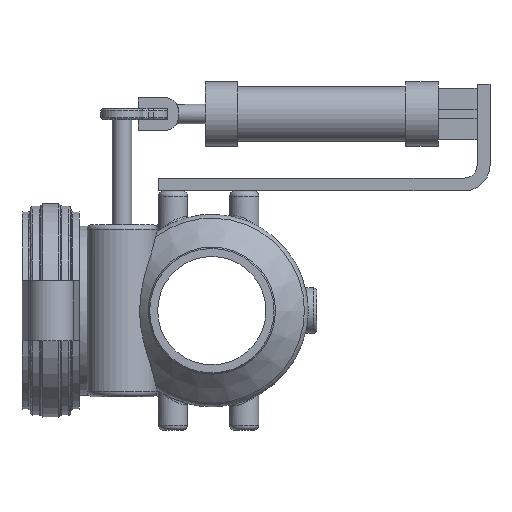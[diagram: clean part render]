
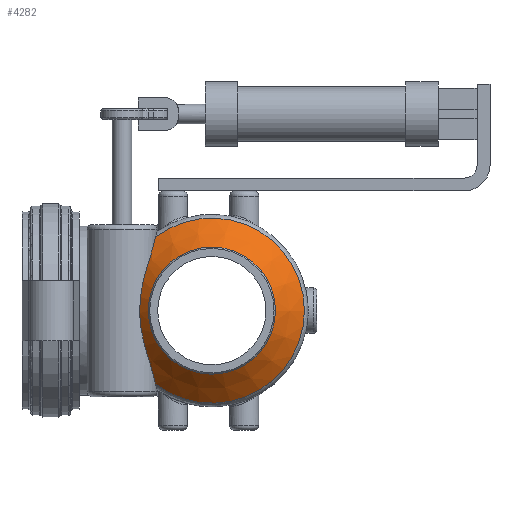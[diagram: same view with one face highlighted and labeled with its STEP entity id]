
A CAD part, left-side view. The second image highlights one B-rep face of the part: STEP entity #4282.
In plain terms, the highlighted conical face has half-angle 45 degrees and reference radius 76.555 mm.
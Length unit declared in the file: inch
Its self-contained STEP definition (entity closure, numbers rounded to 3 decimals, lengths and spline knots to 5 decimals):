
#81=CONICAL_SURFACE('',#4745,3.01397,0.785);
#465=FACE_OUTER_BOUND('',#717,.T.);
#717=EDGE_LOOP('',(#3686,#3687,#3688,#3689,#3690,#3691,#3692,#3693));
#955=LINE('',#9032,#1186);
#1186=VECTOR('',#5893,3.01397);
#1409=CIRCLE('',#4721,3.57229);
#1410=CIRCLE('',#4722,3.57229);
#1428=CIRCLE('',#4746,2.45565);
#1429=CIRCLE('',#4747,2.45565);
#1430=CIRCLE('',#4748,2.45565);
#1542=B_SPLINE_CURVE_WITH_KNOTS('',3,(#8614,#8615,#8616,#8617,#8618,#8619,
#8620,#8621,#8622,#8623,#8624,#8625,#8626,#8627,#8628,#8629,#8630,#8631,
#8632,#8633,#8634,#8635,#8636,#8637,#8638,#8639),.UNSPECIFIED.,.F.,.F.,
(4,2,2,2,2,2,2,2,2,2,2,2,4),(2.9656,4.00933,5.34577,
6.68222,8.01866,9.3551,10.69155,12.02799,
13.36443,14.70088,16.03732,17.37376,18.4175),
 .UNSPECIFIED.);
#1876=VERTEX_POINT('',#8604);
#1877=VERTEX_POINT('',#8613);
#1895=VERTEX_POINT('',#8983);
#1911=VERTEX_POINT('',#9027);
#1912=VERTEX_POINT('',#9028);
#1913=VERTEX_POINT('',#9030);
#2439=EDGE_CURVE('',#1877,#1876,#1542,.T.);
#2488=EDGE_CURVE('',#1895,#1877,#1409,.T.);
#2489=EDGE_CURVE('',#1876,#1895,#1410,.T.);
#2510=EDGE_CURVE('',#1911,#1912,#1428,.T.);
#2511=EDGE_CURVE('',#1913,#1911,#1429,.T.);
#2512=EDGE_CURVE('',#1913,#1895,#955,.T.);
#2513=EDGE_CURVE('',#1912,#1913,#1430,.T.);
#3686=ORIENTED_EDGE('',*,*,#2510,.F.);
#3687=ORIENTED_EDGE('',*,*,#2511,.F.);
#3688=ORIENTED_EDGE('',*,*,#2512,.T.);
#3689=ORIENTED_EDGE('',*,*,#2488,.T.);
#3690=ORIENTED_EDGE('',*,*,#2439,.T.);
#3691=ORIENTED_EDGE('',*,*,#2489,.T.);
#3692=ORIENTED_EDGE('',*,*,#2512,.F.);
#3693=ORIENTED_EDGE('',*,*,#2513,.F.);
#4282=ADVANCED_FACE('',(#465),#81,.T.);
#4721=AXIS2_PLACEMENT_3D('',#8984,#5836,#5837);
#4722=AXIS2_PLACEMENT_3D('',#8985,#5838,#5839);
#4745=AXIS2_PLACEMENT_3D('',#9026,#5887,#5888);
#4746=AXIS2_PLACEMENT_3D('',#9029,#5889,#5890);
#4747=AXIS2_PLACEMENT_3D('',#9031,#5891,#5892);
#4748=AXIS2_PLACEMENT_3D('',#9033,#5894,#5895);
#5836=DIRECTION('center_axis',(-1.,0.,0.));
#5837=DIRECTION('ref_axis',(0.,0.,1.));
#5838=DIRECTION('center_axis',(-1.,0.,0.));
#5839=DIRECTION('ref_axis',(0.,0.,1.));
#5887=DIRECTION('center_axis',(1.,0.,0.));
#5888=DIRECTION('ref_axis',(0.,1.,0.));
#5889=DIRECTION('center_axis',(-1.,0.,0.));
#5890=DIRECTION('ref_axis',(0.,0.,1.));
#5891=DIRECTION('center_axis',(-1.,0.,0.));
#5892=DIRECTION('ref_axis',(0.,0.,1.));
#5893=DIRECTION('',(0.707,-0.707,0.));
#5894=DIRECTION('center_axis',(-1.,0.,0.));
#5895=DIRECTION('ref_axis',(0.,0.,1.));
#8604=CARTESIAN_POINT('',(-3.51771,2.17627,-2.83286));
#8613=CARTESIAN_POINT('',(-3.51771,2.17627,2.83286));
#8614=CARTESIAN_POINT('Ctrl Pts',(-3.51771,2.17627,2.83286));
#8615=CARTESIAN_POINT('Ctrl Pts',(-3.59199,2.19842,2.72217));
#8616=CARTESIAN_POINT('Ctrl Pts',(-3.66183,2.22623,2.60892));
#8617=CARTESIAN_POINT('Ctrl Pts',(-3.80916,2.29849,2.34471));
#8618=CARTESIAN_POINT('Ctrl Pts',(-3.88324,2.34543,2.19206));
#8619=CARTESIAN_POINT('Ctrl Pts',(-4.01206,2.4431,1.87826));
#8620=CARTESIAN_POINT('Ctrl Pts',(-4.06683,2.49382,1.71693));
#8621=CARTESIAN_POINT('Ctrl Pts',(-4.15733,2.58936,1.38681));
#8622=CARTESIAN_POINT('Ctrl Pts',(-4.1931,2.6341,1.21801));
#8623=CARTESIAN_POINT('Ctrl Pts',(-4.24817,2.7092,0.87535));
#8624=CARTESIAN_POINT('Ctrl Pts',(-4.26756,2.73954,0.70141));
#8625=CARTESIAN_POINT('Ctrl Pts',(-4.29289,2.7805,0.35143));
#8626=CARTESIAN_POINT('Ctrl Pts',(-4.29888,2.79112,0.17539));
#8627=CARTESIAN_POINT('Ctrl Pts',(-4.29888,2.79112,-0.17539));
#8628=CARTESIAN_POINT('Ctrl Pts',(-4.29289,2.7805,-0.35143));
#8629=CARTESIAN_POINT('Ctrl Pts',(-4.26756,2.73954,-0.70141));
#8630=CARTESIAN_POINT('Ctrl Pts',(-4.24817,2.7092,-0.87535));
#8631=CARTESIAN_POINT('Ctrl Pts',(-4.1931,2.6341,-1.21801));
#8632=CARTESIAN_POINT('Ctrl Pts',(-4.15733,2.58936,-1.38681));
#8633=CARTESIAN_POINT('Ctrl Pts',(-4.06683,2.49382,-1.71693));
#8634=CARTESIAN_POINT('Ctrl Pts',(-4.01206,2.4431,-1.87826));
#8635=CARTESIAN_POINT('Ctrl Pts',(-3.88324,2.34543,-2.19206));
#8636=CARTESIAN_POINT('Ctrl Pts',(-3.80916,2.29849,-2.34471));
#8637=CARTESIAN_POINT('Ctrl Pts',(-3.66183,2.22623,-2.60892));
#8638=CARTESIAN_POINT('Ctrl Pts',(-3.59199,2.19842,-2.72217));
#8639=CARTESIAN_POINT('Ctrl Pts',(-3.51771,2.17627,-2.83286));
#8983=CARTESIAN_POINT('',(-3.51771,-3.57229,0.));
#8984=CARTESIAN_POINT('Origin',(-3.51771,0.,0.));
#8985=CARTESIAN_POINT('Origin',(-3.51771,0.,0.));
#9026=CARTESIAN_POINT('Origin',(-4.07603,0.,0.));
#9027=CARTESIAN_POINT('',(-4.63435,2.45565,0.));
#9028=CARTESIAN_POINT('',(-4.63435,0.,-2.45565));
#9029=CARTESIAN_POINT('Origin',(-4.63435,0.,0.));
#9030=CARTESIAN_POINT('',(-4.63435,-2.45565,0.));
#9031=CARTESIAN_POINT('Origin',(-4.63435,0.,0.));
#9032=CARTESIAN_POINT('',(-4.07603,-3.01397,0.));
#9033=CARTESIAN_POINT('Origin',(-4.63435,0.,0.));
